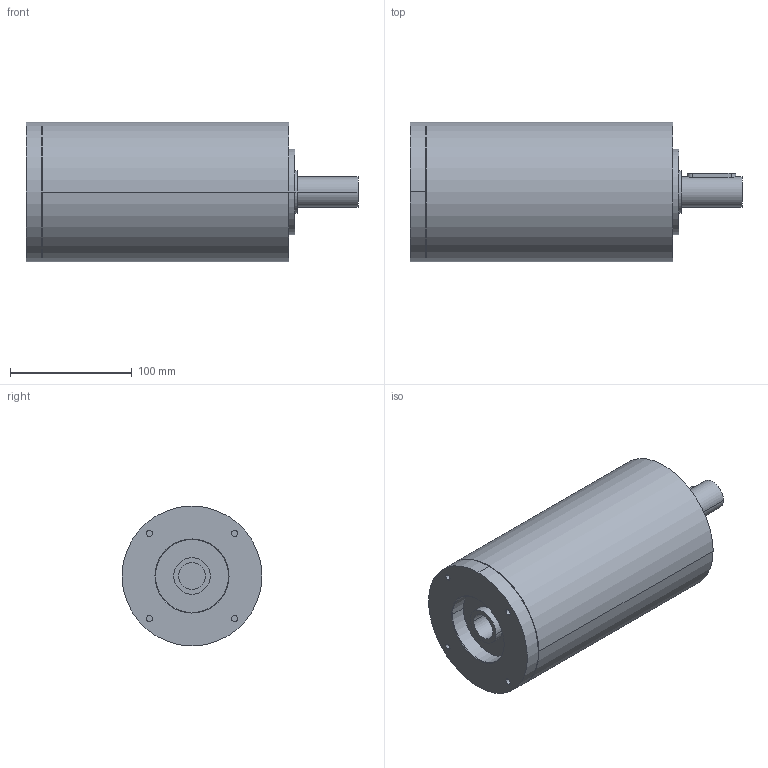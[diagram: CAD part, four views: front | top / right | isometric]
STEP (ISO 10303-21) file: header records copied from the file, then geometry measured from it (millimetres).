
FILE_DESCRIPTION(('CoCreate Modeling STEP Export'),'2;1');
FILE_NAME('GPR125_ig-48-64-80-100-140-196-245-343_25_B14_22_P20.stp','2014-08-26T14:22:18',(''),(''),'CoCreate Modeling STEP processor for AP214 (Solid Model)','CoCreate Modeling 16.00C 25-Feb-2009 (C) Parametric Technology GmbH','');
FILE_SCHEMA(('AUTOMOTIVE_DESIGN { 1 0 10303 214 1 1 1 1 }'));
Length unit declared in the file: millimetre
Products named in the file (2): GPR125_ig-48-64-80-100-140-196-245-343_25_B14_22_P20
Assembly tree (1 placements, depth 2):
  GPR125_ig-48-64-80-100-140-196-245-343_25_B14_22_P20
    GPR125_ig-48-64-80-100-140-196-245-343_25_B14_22_P20
Bounding box: 273 x 115 x 115 mm (x, y, z)
Volume: 2230929.6 mm3; surface area: 114910 mm2
Topology: 1 solids, 1 shells, 62 faces, 157 edges, 111 vertices
Faces by surface type: cylinder 36, plane 20, cone 6
Entity records: 1605 total; most frequent: ORIENTED_EDGE 310, CARTESIAN_POINT 306, DIRECTION 206, EDGE_CURVE 155, VERTEX_POINT 111, AXIS2_PLACEMENT_3D 79, EDGE_LOOP 78, FACE_OUTER_BOUND 62
